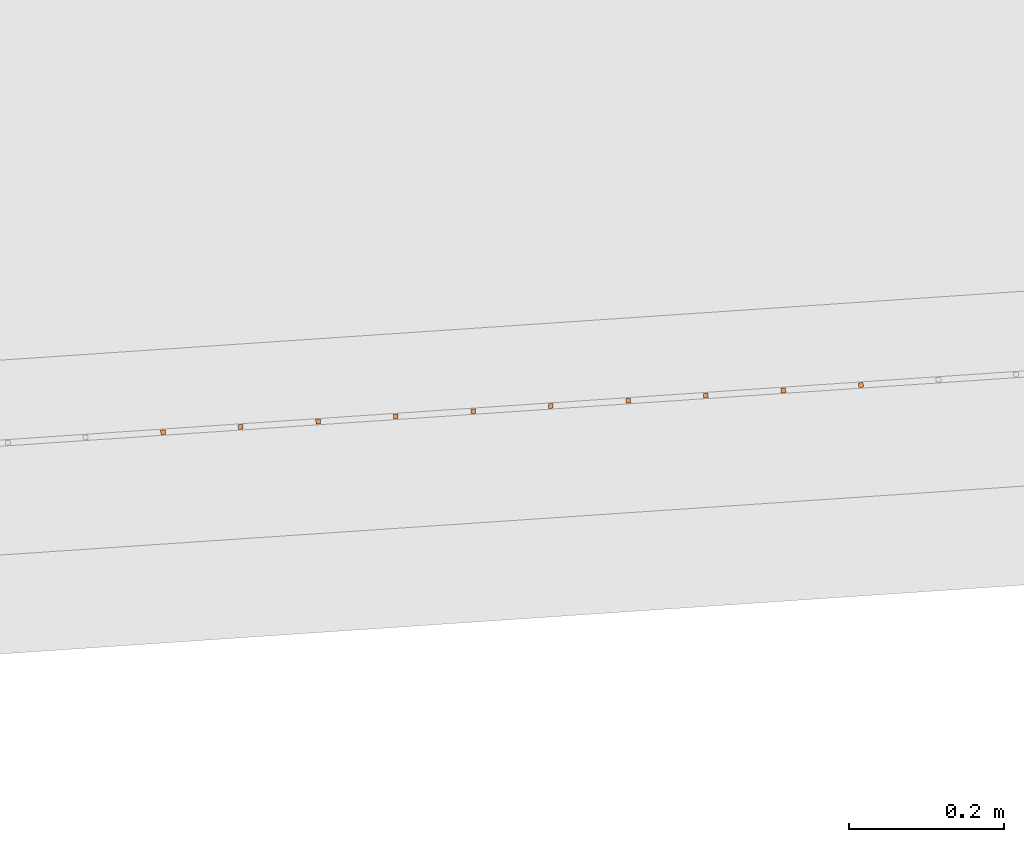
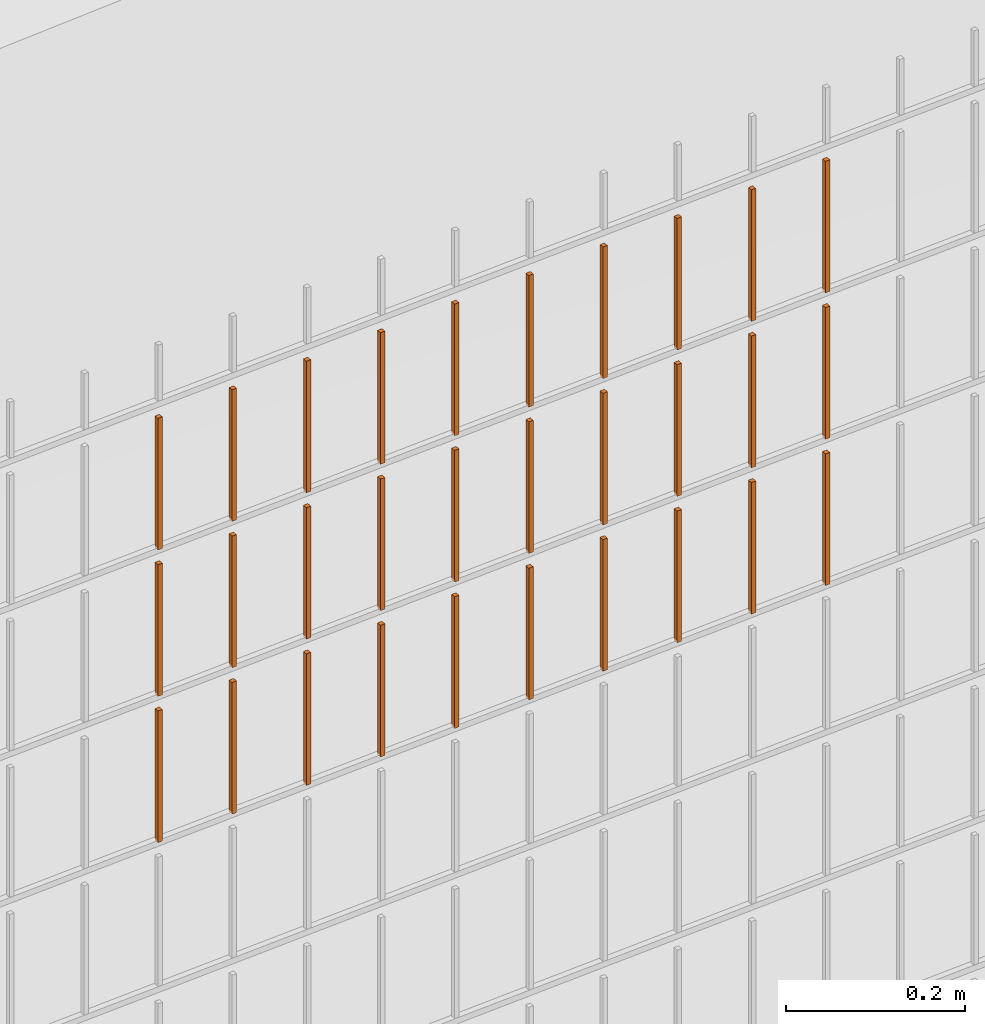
# One storey, part 318 of 1809: 30 proxies, 1 element without a shape of its own.
"""IFC2X3 building model written with IfcOpenShell, lengths in millimetres."""

from ifc_helpers import new_model, entity, si_unit, converted_unit, derived_unit, money_unit, direction, frame, origin_with_axes, place, context, subcontext, project, spatial, faceted_brep, source, transform, mapped, material, type_object, element, aggregate, save


model = new_model("IFC2X3")

# Units and contexts
model_context = context("Model", 3, precision=0.01, world=origin_with_axes(), true_north=direction((0.0, 1.0)))
body_context = subcontext(model_context, "Body", "Model", "MODEL_VIEW")
ifc_project = project(units=[si_unit("LENGTHUNIT", "METRE", prefix="MILLI"), si_unit("AREAUNIT", "SQUARE_METRE"), si_unit("VOLUMEUNIT", "CUBIC_METRE"), converted_unit("PLANEANGLEUNIT", "DEGREE", entity("IfcPlaneAngleMeasure", 0.0174532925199), si_unit("PLANEANGLEUNIT", "RADIAN"), dimensions=[0, 0, 0, 0, 0, 0, 0]), si_unit("SOLIDANGLEUNIT", "STERADIAN"), money_unit("EUR"), converted_unit("TIMEUNIT", "Year", entity("IfcTimeMeasure", 31556926.0), si_unit("TIMEUNIT", "SECOND"), dimensions=[0, 0, 1, 0, 0, 0, 0]), si_unit("MASSUNIT", "GRAM", prefix="KILO"), si_unit("THERMODYNAMICTEMPERATUREUNIT", "DEGREE_CELSIUS"), si_unit("LUMINOUSINTENSITYUNIT", "LUMEN"), si_unit("ENERGYUNIT", "JOULE", prefix="MEGA"), derived_unit("THERMALCONDUCTANCEUNIT", [(si_unit("POWERUNIT", "WATT"), 1), (si_unit("LENGTHUNIT", "METRE"), -1), (si_unit("THERMODYNAMICTEMPERATUREUNIT", "KELVIN"), -1)]), derived_unit("SPECIFICHEATCAPACITYUNIT", [(si_unit("ENERGYUNIT", "JOULE"), 1), (si_unit("MASSUNIT", "GRAM", prefix="KILO"), -1), (si_unit("THERMODYNAMICTEMPERATUREUNIT", "KELVIN"), -1)]), derived_unit("MASSDENSITYUNIT", [(si_unit("MASSUNIT", "GRAM", prefix="KILO"), 1), (si_unit("VOLUMEUNIT", "CUBIC_METRE"), -1)])], contexts=[model_context])

# Site, building, storey
site_placement = place(None, origin_with_axes())
site = spatial("IfcSite", under=ifc_project, at=site_placement, Name="Politse- ja Piirivalveameti ning Päästeameti ühishoone", CompositionType="ELEMENT")
building_placement = place(site_placement, origin_with_axes())
building = spatial("IfcBuilding", under=site, at=building_placement, Name="Politse- ja Piirivalveameti ning Päästeameti ühishoone", CompositionType="ELEMENT")
storey_placement = place(building_placement, origin_with_axes())
storey = spatial("IfcBuildingStorey", under=building, at=storey_placement, Name="Esimene korrus", CompositionType="ELEMENT", Elevation=0.0)

# Proxies
building_element_proxy_type_1 = type_object("IfcBuildingElementProxyType", Name="Railing Type", PredefinedType="NOTDEFINED")
proxy_1_placement = place(storey_placement, frame((89252.001212, -29183.4766571, 203.661247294), z_axis=(0.0, 0.0, 1.0), x_axis=(1.0, 0.0, 0.0)))
proxy_1 = element("IfcBuildingElementProxy", 1, at=proxy_1_placement, inside=storey, type_object=building_element_proxy_type_1, Name="PIIRDEAED")
ifc_material = material(Name="ET-03_Raud")
building_element_proxy_type_2 = type_object("IfcBuildingElementProxyType", Name="IfcBuildingElementProxy", PredefinedType="NOTDEFINED")
shared_shape_1 = source(origin_with_axes(), body_context, "Body", "Brep", [
    faceted_brep([(3.0, 3.0, -0.000752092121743), (-3.0, 3.0, -0.000752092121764), (-3.0, 3.0, 179.99926046), (3.0, 3.0, 179.99926046), (3.0, -3.0, 0.000752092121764), (-3.0, -3.0, 0.000752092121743), (-3.0, -3.0, 180.000764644), (3.0, -3.0, 180.000764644)], [[[0, 1, 2, 3]], [[0, 4, 5, 1]], [[1, 5, 6, 2]], [[3, 2, 6, 7]], [[4, 0, 3, 7]], [[5, 4, 7, 6]]]),
])
proxy_2_placement = place(proxy_1_placement, frame((-38538.8713622, -19900.9300817, 1417.55077627), z_axis=(0.0, 0.0, 1.0), x_axis=(1.0, 0.0, 0.0)))
proxy_2 = element("IfcBuildingElementProxy", 2, at=proxy_2_placement, type_object=building_element_proxy_type_2, material=ifc_material, Name="BALUSTER - 001", context=body_context, shape_type="MappedRepresentation", body=[
    mapped(shared_shape_1, transform((0.0, 0.0, 0.0), x_axis=(-0.0673926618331, 0.997726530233, 0.0), y_axis=(-0.997726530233, -0.0673926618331, 0.0), z_axis=(0.0, 0.0, 1.0))),
])
shared_shape_2 = source(origin_with_axes(), body_context, "Body", "Brep", [
    faceted_brep([(3.0, 3.0, -0.000752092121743), (-3.0, 3.0, -0.000752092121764), (-3.0, 3.0, 179.99926046), (3.0, 3.0, 179.99926046), (3.0, -3.0, 0.000752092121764), (-3.0, -3.0, 0.000752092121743), (-3.0, -3.0, 180.000764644), (3.0, -3.0, 180.000764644)], [[[0, 1, 2, 3]], [[0, 4, 5, 1]], [[1, 5, 6, 2]], [[3, 2, 6, 7]], [[4, 0, 3, 7]], [[5, 4, 7, 6]]]),
])
proxy_3_placement = place(proxy_1_placement, frame((-38538.8713622, -19900.9300817, 1817.55077627), z_axis=(0.0, 0.0, 1.0), x_axis=(1.0, 0.0, 0.0)))
proxy_3 = element("IfcBuildingElementProxy", 3, at=proxy_3_placement, type_object=building_element_proxy_type_2, material=ifc_material, Name="BALUSTER - 001", context=body_context, shape_type="MappedRepresentation", body=[
    mapped(shared_shape_2, transform((0.0, 0.0, 0.0), x_axis=(-0.0673926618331, 0.997726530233, 0.0), y_axis=(-0.997726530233, -0.0673926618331, 0.0), z_axis=(0.0, 0.0, 1.0))),
])
shared_shape_3 = source(origin_with_axes(), body_context, "Body", "Brep", [
    faceted_brep([(3.0, 3.0, -0.000752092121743), (-3.0, 3.0, -0.000752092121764), (-3.0, 3.0, 179.99926046), (3.0, 3.0, 179.99926046), (3.0, -3.0, 0.000752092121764), (-3.0, -3.0, 0.000752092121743), (-3.0, -3.0, 180.000764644), (3.0, -3.0, 180.000764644)], [[[0, 1, 2, 3]], [[0, 4, 5, 1]], [[1, 5, 6, 2]], [[3, 2, 6, 7]], [[4, 0, 3, 7]], [[5, 4, 7, 6]]]),
])
proxy_4_placement = place(proxy_1_placement, frame((-38439.0987092, -19894.1908155, 1417.57584601), z_axis=(0.0, 0.0, 1.0), x_axis=(1.0, 0.0, 0.0)))
proxy_4 = element("IfcBuildingElementProxy", 4, at=proxy_4_placement, type_object=building_element_proxy_type_2, material=ifc_material, Name="BALUSTER - 001", context=body_context, shape_type="MappedRepresentation", body=[
    mapped(shared_shape_3, transform((0.0, 0.0, 0.0), x_axis=(-0.0673926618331, 0.997726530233, 0.0), y_axis=(-0.997726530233, -0.0673926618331, 0.0), z_axis=(0.0, 0.0, 1.0))),
])
proxy_5_placement = place(proxy_1_placement, frame((-38439.0987092, -19894.1908155, 1617.57584601), z_axis=(0.0, 0.0, 1.0), x_axis=(1.0, 0.0, 0.0)))
proxy_5 = element("IfcBuildingElementProxy", 5, at=proxy_5_placement, type_object=building_element_proxy_type_2, material=ifc_material, Name="BALUSTER - 001", context=body_context, shape_type="MappedRepresentation", body=[
    mapped(shared_shape_3, transform((0.0, 0.0, 0.0), x_axis=(-0.0673926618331, 0.997726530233, 0.0), y_axis=(-0.997726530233, -0.0673926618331, 0.0), z_axis=(0.0, 0.0, 1.0))),
])
shared_shape_4 = source(origin_with_axes(), body_context, "Body", "Brep", [
    faceted_brep([(3.0, 3.0, -0.000752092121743), (-3.0, 3.0, -0.000752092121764), (-3.0, 3.0, 179.99926046), (3.0, 3.0, 179.99926046), (3.0, -3.0, 0.000752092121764), (-3.0, -3.0, 0.000752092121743), (-3.0, -3.0, 180.000764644), (3.0, -3.0, 180.000764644)], [[[0, 1, 2, 3]], [[0, 4, 5, 1]], [[1, 5, 6, 2]], [[3, 2, 6, 7]], [[4, 0, 3, 7]], [[5, 4, 7, 6]]]),
])
proxy_6_placement = place(proxy_1_placement, frame((-38538.8713622, -19900.9300817, 1617.55077627), z_axis=(0.0, 0.0, 1.0), x_axis=(1.0, 0.0, 0.0)))
proxy_6 = element("IfcBuildingElementProxy", 6, at=proxy_6_placement, type_object=building_element_proxy_type_2, material=ifc_material, Name="BALUSTER - 001", context=body_context, shape_type="MappedRepresentation", body=[
    mapped(shared_shape_4, transform((0.0, 0.0, 0.0), x_axis=(-0.0673926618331, 0.997726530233, 0.0), y_axis=(-0.997726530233, -0.0673926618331, 0.0), z_axis=(0.0, 0.0, 1.0))),
])
proxy_7_placement = place(proxy_1_placement, frame((-38439.0987092, -19894.1908155, 1817.57584601), z_axis=(0.0, 0.0, 1.0), x_axis=(1.0, 0.0, 0.0)))
proxy_7 = element("IfcBuildingElementProxy", 7, at=proxy_7_placement, type_object=building_element_proxy_type_2, material=ifc_material, Name="BALUSTER - 001", context=body_context, shape_type="MappedRepresentation", body=[
    mapped(shared_shape_4, transform((0.0, 0.0, 0.0), x_axis=(-0.0673926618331, 0.997726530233, 0.0), y_axis=(-0.997726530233, -0.0673926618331, 0.0), z_axis=(0.0, 0.0, 1.0))),
])
shared_shape_5 = source(origin_with_axes(), body_context, "Body", "Brep", [
    faceted_brep([(3.0, 3.0, -0.000752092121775), (-3.0, 3.0, -0.000752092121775), (-3.0, 3.0, 179.99926046), (3.0, 3.0, 179.99926046), (3.0, -3.0, 0.000752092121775), (-3.0, -3.0, 0.000752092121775), (-3.0, -3.0, 180.000764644), (3.0, -3.0, 180.000764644)], [[[0, 1, 2, 3]], [[0, 4, 5, 1]], [[1, 5, 6, 2]], [[3, 2, 6, 7]], [[4, 0, 3, 7]], [[5, 4, 7, 6]]]),
])
proxy_8_placement = place(proxy_1_placement, frame((-38838.1893213, -19921.1478802, 1417.47556706), z_axis=(0.0, 0.0, 1.0), x_axis=(1.0, 0.0, 0.0)))
proxy_8 = element("IfcBuildingElementProxy", 8, at=proxy_8_placement, type_object=building_element_proxy_type_2, material=ifc_material, Name="BALUSTER - 001", context=body_context, shape_type="MappedRepresentation", body=[
    mapped(shared_shape_5, transform((0.0, 0.0, 0.0), x_axis=(-0.0673926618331, 0.997726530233, 0.0), y_axis=(-0.997726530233, -0.0673926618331, 0.0), z_axis=(0.0, 0.0, 1.0))),
])
shared_shape_6 = source(origin_with_axes(), body_context, "Body", "Brep", [
    faceted_brep([(3.0, 3.0, -0.000752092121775), (-3.0, 3.0, -0.000752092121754), (-3.0, 3.0, 179.99926046), (3.0, 3.0, 179.99926046), (3.0, -3.0, 0.000752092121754), (-3.0, -3.0, 0.000752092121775), (-3.0, -3.0, 180.000764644), (3.0, -3.0, 180.000764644)], [[[0, 1, 2, 3]], [[0, 4, 5, 1]], [[1, 5, 6, 2]], [[3, 2, 6, 7]], [[4, 0, 3, 7]], [[5, 4, 7, 6]]]),
])
proxy_9_placement = place(proxy_1_placement, frame((-39037.7346273, -19934.6264126, 1817.42542759), z_axis=(0.0, 0.0, 1.0), x_axis=(1.0, 0.0, 0.0)))
proxy_9 = element("IfcBuildingElementProxy", 9, at=proxy_9_placement, type_object=building_element_proxy_type_2, material=ifc_material, Name="BALUSTER - 001", context=body_context, shape_type="MappedRepresentation", body=[
    mapped(shared_shape_6, transform((0.0, 0.0, 0.0), x_axis=(-0.0673926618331, 0.997726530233, 0.0), y_axis=(-0.997726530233, -0.0673926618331, 0.0), z_axis=(0.0, 0.0, 1.0))),
])
shared_shape_7 = source(origin_with_axes(), body_context, "Body", "Brep", [
    faceted_brep([(3.0, 3.0, -0.000752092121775), (-3.0, 3.0, -0.000752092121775), (-3.0, 3.0, 179.99926046), (3.0, 3.0, 179.99926046), (3.0, -3.0, 0.000752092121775), (-3.0, -3.0, 0.000752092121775), (-3.0, -3.0, 180.000764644), (3.0, -3.0, 180.000764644)], [[[0, 1, 2, 3]], [[0, 4, 5, 1]], [[1, 5, 6, 2]], [[3, 2, 6, 7]], [[4, 0, 3, 7]], [[5, 4, 7, 6]]]),
])
proxy_10_placement = place(proxy_1_placement, frame((-38838.1893213, -19921.1478802, 1817.47556706), z_axis=(0.0, 0.0, 1.0), x_axis=(1.0, 0.0, 0.0)))
proxy_10 = element("IfcBuildingElementProxy", 10, at=proxy_10_placement, type_object=building_element_proxy_type_2, material=ifc_material, Name="BALUSTER - 001", context=body_context, shape_type="MappedRepresentation", body=[
    mapped(shared_shape_7, transform((0.0, 0.0, 0.0), x_axis=(-0.0673926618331, 0.997726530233, 0.0), y_axis=(-0.997726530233, -0.0673926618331, 0.0), z_axis=(0.0, 0.0, 1.0))),
])
shared_shape_8 = source(origin_with_axes(), body_context, "Body", "Brep", [
    faceted_brep([(3.0, 3.0, -0.000752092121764), (-3.0, 3.0, -0.000752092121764), (-3.0, 3.0, 179.99926046), (3.0, 3.0, 179.99926046), (3.0, -3.0, 0.000752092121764), (-3.0, -3.0, 0.000752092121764), (-3.0, -3.0, 180.000764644), (3.0, -3.0, 180.000764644)], [[[0, 1, 2, 3]], [[0, 4, 5, 1]], [[1, 5, 6, 2]], [[3, 2, 6, 7]], [[4, 0, 3, 7]], [[5, 4, 7, 6]]]),
])
proxy_11_placement = place(proxy_1_placement, frame((-38638.6440152, -19907.6693479, 1817.52570654), z_axis=(0.0, 0.0, 1.0), x_axis=(1.0, 0.0, 0.0)))
proxy_11 = element("IfcBuildingElementProxy", 11, at=proxy_11_placement, type_object=building_element_proxy_type_2, material=ifc_material, Name="BALUSTER - 001", context=body_context, shape_type="MappedRepresentation", body=[
    mapped(shared_shape_8, transform((0.0, 0.0, 0.0), x_axis=(-0.0673926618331, 0.997726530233, 0.0), y_axis=(-0.997726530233, -0.0673926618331, 0.0), z_axis=(0.0, 0.0, 1.0))),
])
shared_shape_9 = source(origin_with_axes(), body_context, "Body", "Brep", [
    faceted_brep([(3.0, 3.0, -0.000752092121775), (-3.0, 3.0, -0.000752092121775), (-3.0, 3.0, 179.99926046), (3.0, 3.0, 179.99926046), (3.0, -3.0, 0.000752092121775), (-3.0, -3.0, 0.000752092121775), (-3.0, -3.0, 180.000764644), (3.0, -3.0, 180.000764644)], [[[0, 1, 2, 3]], [[0, 4, 5, 1]], [[1, 5, 6, 2]], [[3, 2, 6, 7]], [[4, 0, 3, 7]], [[5, 4, 7, 6]]]),
])
proxy_12_placement = place(proxy_1_placement, frame((-38838.1893213, -19921.1478802, 1617.47556706), z_axis=(0.0, 0.0, 1.0), x_axis=(1.0, 0.0, 0.0)))
proxy_12 = element("IfcBuildingElementProxy", 12, at=proxy_12_placement, type_object=building_element_proxy_type_2, material=ifc_material, Name="BALUSTER - 001", context=body_context, shape_type="MappedRepresentation", body=[
    mapped(shared_shape_9, transform((0.0, 0.0, 0.0), x_axis=(-0.0673926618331, 0.997726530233, 0.0), y_axis=(-0.997726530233, -0.0673926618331, 0.0), z_axis=(0.0, 0.0, 1.0))),
])
shared_shape_10 = source(origin_with_axes(), body_context, "Body", "Brep", [
    faceted_brep([(3.0, 3.0, -0.000752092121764), (-3.0, 3.0, -0.000752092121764), (-3.0, 3.0, 179.99926046), (3.0, 3.0, 179.99926046), (3.0, -3.0, 0.000752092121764), (-3.0, -3.0, 0.000752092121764), (-3.0, -3.0, 180.000764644), (3.0, -3.0, 180.000764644)], [[[0, 1, 2, 3]], [[0, 4, 5, 1]], [[1, 5, 6, 2]], [[3, 2, 6, 7]], [[4, 0, 3, 7]], [[5, 4, 7, 6]]]),
])
proxy_13_placement = place(proxy_1_placement, frame((-38937.9619743, -19927.8871464, 1417.45049732), z_axis=(0.0, 0.0, 1.0), x_axis=(1.0, 0.0, 0.0)))
proxy_13 = element("IfcBuildingElementProxy", 13, at=proxy_13_placement, type_object=building_element_proxy_type_2, material=ifc_material, Name="BALUSTER - 001", context=body_context, shape_type="MappedRepresentation", body=[
    mapped(shared_shape_10, transform((0.0, 0.0, 0.0), x_axis=(-0.0673926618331, 0.997726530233, 0.0), y_axis=(-0.997726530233, -0.0673926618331, 0.0), z_axis=(0.0, 0.0, 1.0))),
])
shared_shape_11 = source(origin_with_axes(), body_context, "Body", "Brep", [
    faceted_brep([(3.0, 3.0, -0.000752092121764), (-3.0, 3.0, -0.000752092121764), (-3.0, 3.0, 179.99926046), (3.0, 3.0, 179.99926046), (3.0, -3.0, 0.000752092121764), (-3.0, -3.0, 0.000752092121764), (-3.0, -3.0, 180.000764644), (3.0, -3.0, 180.000764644)], [[[0, 1, 2, 3]], [[0, 4, 5, 1]], [[1, 5, 6, 2]], [[3, 2, 6, 7]], [[4, 0, 3, 7]], [[5, 4, 7, 6]]]),
])
proxy_14_placement = place(proxy_1_placement, frame((-38339.3260561, -19887.4515493, 1817.60091575), z_axis=(0.0, 0.0, 1.0), x_axis=(1.0, 0.0, 0.0)))
proxy_14 = element("IfcBuildingElementProxy", 14, at=proxy_14_placement, type_object=building_element_proxy_type_2, material=ifc_material, Name="BALUSTER - 001", context=body_context, shape_type="MappedRepresentation", body=[
    mapped(shared_shape_11, transform((0.0, 0.0, 0.0), x_axis=(-0.0673926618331, 0.997726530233, 0.0), y_axis=(-0.997726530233, -0.0673926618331, 0.0), z_axis=(0.0, 0.0, 1.0))),
])
proxy_15_placement = place(proxy_1_placement, frame((-38937.9619743, -19927.8871464, 1817.45049732), z_axis=(0.0, 0.0, 1.0), x_axis=(1.0, 0.0, 0.0)))
proxy_15 = element("IfcBuildingElementProxy", 15, at=proxy_15_placement, type_object=building_element_proxy_type_2, material=ifc_material, Name="BALUSTER - 001", context=body_context, shape_type="MappedRepresentation", body=[
    mapped(shared_shape_11, transform((0.0, 0.0, 0.0), x_axis=(-0.0673926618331, 0.997726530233, 0.0), y_axis=(-0.997726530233, -0.0673926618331, 0.0), z_axis=(0.0, 0.0, 1.0))),
])
shared_shape_12 = source(origin_with_axes(), body_context, "Body", "Brep", [
    faceted_brep([(3.0, 3.0, -0.000752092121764), (-3.0, 3.0, -0.000752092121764), (-3.0, 3.0, 179.99926046), (3.0, 3.0, 179.99926046), (3.0, -3.0, 0.000752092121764), (-3.0, -3.0, 0.000752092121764), (-3.0, -3.0, 180.000764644), (3.0, -3.0, 180.000764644)], [[[0, 1, 2, 3]], [[0, 4, 5, 1]], [[1, 5, 6, 2]], [[3, 2, 6, 7]], [[4, 0, 3, 7]], [[5, 4, 7, 6]]]),
])
proxy_16_placement = place(proxy_1_placement, frame((-38638.6440152, -19907.6693479, 1417.52570654), z_axis=(0.0, 0.0, 1.0), x_axis=(1.0, 0.0, 0.0)))
proxy_16 = element("IfcBuildingElementProxy", 16, at=proxy_16_placement, type_object=building_element_proxy_type_2, material=ifc_material, Name="BALUSTER - 001", context=body_context, shape_type="MappedRepresentation", body=[
    mapped(shared_shape_12, transform((0.0, 0.0, 0.0), x_axis=(-0.0673926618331, 0.997726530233, 0.0), y_axis=(-0.997726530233, -0.0673926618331, 0.0), z_axis=(0.0, 0.0, 1.0))),
])
shared_shape_13 = source(origin_with_axes(), body_context, "Body", "Brep", [
    faceted_brep([(3.0, 3.0, -0.000752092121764), (-3.0, 3.0, -0.000752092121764), (-3.0, 3.0, 179.99926046), (3.0, 3.0, 179.99926046), (3.0, -3.0, 0.000752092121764), (-3.0, -3.0, 0.000752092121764), (-3.0, -3.0, 180.000764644), (3.0, -3.0, 180.000764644)], [[[0, 1, 2, 3]], [[0, 4, 5, 1]], [[1, 5, 6, 2]], [[3, 2, 6, 7]], [[4, 0, 3, 7]], [[5, 4, 7, 6]]]),
])
proxy_17_placement = place(proxy_1_placement, frame((-38239.5534031, -19880.7122831, 1817.62598549), z_axis=(0.0, 0.0, 1.0), x_axis=(1.0, 0.0, 0.0)))
proxy_17 = element("IfcBuildingElementProxy", 17, at=proxy_17_placement, type_object=building_element_proxy_type_2, material=ifc_material, Name="BALUSTER - 001", context=body_context, shape_type="MappedRepresentation", body=[
    mapped(shared_shape_13, transform((0.0, 0.0, 0.0), x_axis=(-0.0673926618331, 0.997726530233, 0.0), y_axis=(-0.997726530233, -0.0673926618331, 0.0), z_axis=(0.0, 0.0, 1.0))),
])
proxy_18_placement = place(proxy_1_placement, frame((-38738.4166682, -19914.408614, 1817.5006368), z_axis=(0.0, 0.0, 1.0), x_axis=(1.0, 0.0, 0.0)))
proxy_18 = element("IfcBuildingElementProxy", 18, at=proxy_18_placement, type_object=building_element_proxy_type_2, material=ifc_material, Name="BALUSTER - 001", context=body_context, shape_type="MappedRepresentation", body=[
    mapped(shared_shape_13, transform((0.0, 0.0, 0.0), x_axis=(-0.0673926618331, 0.997726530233, 0.0), y_axis=(-0.997726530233, -0.0673926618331, 0.0), z_axis=(0.0, 0.0, 1.0))),
])
shared_shape_14 = source(origin_with_axes(), body_context, "Body", "Brep", [
    faceted_brep([(3.0, 3.0, -0.000752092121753), (-3.0, 3.0, -0.000752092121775), (-3.0, 3.0, 179.99926046), (3.0, 3.0, 179.99926046), (3.0, -3.0, 0.000752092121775), (-3.0, -3.0, 0.000752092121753), (-3.0, -3.0, 180.000764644), (3.0, -3.0, 180.000764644)], [[[0, 1, 2, 3]], [[0, 4, 5, 1]], [[1, 5, 6, 2]], [[3, 2, 6, 7]], [[4, 0, 3, 7]], [[5, 4, 7, 6]]]),
])
proxy_19_placement = place(proxy_1_placement, frame((-39137.5072803, -19941.3656788, 1817.40035785), z_axis=(0.0, 0.0, 1.0), x_axis=(1.0, 0.0, 0.0)))
proxy_19 = element("IfcBuildingElementProxy", 19, at=proxy_19_placement, type_object=building_element_proxy_type_2, material=ifc_material, Name="BALUSTER - 001", context=body_context, shape_type="MappedRepresentation", body=[
    mapped(shared_shape_14, transform((0.0, 0.0, 0.0), x_axis=(-0.0673926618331, 0.997726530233, 0.0), y_axis=(-0.997726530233, -0.0673926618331, 0.0), z_axis=(0.0, 0.0, 1.0))),
])
shared_shape_15 = source(origin_with_axes(), body_context, "Body", "Brep", [
    faceted_brep([(3.0, 3.0, -0.000752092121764), (-3.0, 3.0, -0.000752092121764), (-3.0, 3.0, 179.99926046), (3.0, 3.0, 179.99926046), (3.0, -3.0, 0.000752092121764), (-3.0, -3.0, 0.000752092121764), (-3.0, -3.0, 180.000764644), (3.0, -3.0, 180.000764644)], [[[0, 1, 2, 3]], [[0, 4, 5, 1]], [[1, 5, 6, 2]], [[3, 2, 6, 7]], [[4, 0, 3, 7]], [[5, 4, 7, 6]]]),
])
proxy_20_placement = place(proxy_1_placement, frame((-38339.3260561, -19887.4515493, 1417.60091575), z_axis=(0.0, 0.0, 1.0), x_axis=(1.0, 0.0, 0.0)))
proxy_20 = element("IfcBuildingElementProxy", 20, at=proxy_20_placement, type_object=building_element_proxy_type_2, material=ifc_material, Name="BALUSTER - 001", context=body_context, shape_type="MappedRepresentation", body=[
    mapped(shared_shape_15, transform((0.0, 0.0, 0.0), x_axis=(-0.0673926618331, 0.997726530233, 0.0), y_axis=(-0.997726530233, -0.0673926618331, 0.0), z_axis=(0.0, 0.0, 1.0))),
])
proxy_21_placement = place(proxy_1_placement, frame((-38339.3260561, -19887.4515493, 1617.60091575), z_axis=(0.0, 0.0, 1.0), x_axis=(1.0, 0.0, 0.0)))
proxy_21 = element("IfcBuildingElementProxy", 21, at=proxy_21_placement, type_object=building_element_proxy_type_2, material=ifc_material, Name="BALUSTER - 001", context=body_context, shape_type="MappedRepresentation", body=[
    mapped(shared_shape_15, transform((0.0, 0.0, 0.0), x_axis=(-0.0673926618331, 0.997726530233, 0.0), y_axis=(-0.997726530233, -0.0673926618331, 0.0), z_axis=(0.0, 0.0, 1.0))),
])
shared_shape_16 = source(origin_with_axes(), body_context, "Body", "Brep", [
    faceted_brep([(3.0, 3.0, -0.000752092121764), (-3.0, 3.0, -0.000752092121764), (-3.0, 3.0, 179.99926046), (3.0, 3.0, 179.99926046), (3.0, -3.0, 0.000752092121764), (-3.0, -3.0, 0.000752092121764), (-3.0, -3.0, 180.000764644), (3.0, -3.0, 180.000764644)], [[[0, 1, 2, 3]], [[0, 4, 5, 1]], [[1, 5, 6, 2]], [[3, 2, 6, 7]], [[4, 0, 3, 7]], [[5, 4, 7, 6]]]),
])
proxy_22_placement = place(proxy_1_placement, frame((-38638.6440152, -19907.6693479, 1617.52570654), z_axis=(0.0, 0.0, 1.0), x_axis=(1.0, 0.0, 0.0)))
proxy_22 = element("IfcBuildingElementProxy", 22, at=proxy_22_placement, type_object=building_element_proxy_type_2, material=ifc_material, Name="BALUSTER - 001", context=body_context, shape_type="MappedRepresentation", body=[
    mapped(shared_shape_16, transform((0.0, 0.0, 0.0), x_axis=(-0.0673926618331, 0.997726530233, 0.0), y_axis=(-0.997726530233, -0.0673926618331, 0.0), z_axis=(0.0, 0.0, 1.0))),
])
shared_shape_17 = source(origin_with_axes(), body_context, "Body", "Brep", [
    faceted_brep([(3.0, 3.0, -0.000752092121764), (-3.0, 3.0, -0.000752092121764), (-3.0, 3.0, 179.99926046), (3.0, 3.0, 179.99926046), (3.0, -3.0, 0.000752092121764), (-3.0, -3.0, 0.000752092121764), (-3.0, -3.0, 180.000764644), (3.0, -3.0, 180.000764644)], [[[0, 1, 2, 3]], [[0, 4, 5, 1]], [[1, 5, 6, 2]], [[3, 2, 6, 7]], [[4, 0, 3, 7]], [[5, 4, 7, 6]]]),
])
proxy_23_placement = place(proxy_1_placement, frame((-38239.5534031, -19880.7122831, 1417.62598549), z_axis=(0.0, 0.0, 1.0), x_axis=(1.0, 0.0, 0.0)))
proxy_23 = element("IfcBuildingElementProxy", 23, at=proxy_23_placement, type_object=building_element_proxy_type_2, material=ifc_material, Name="BALUSTER - 001", context=body_context, shape_type="MappedRepresentation", body=[
    mapped(shared_shape_17, transform((0.0, 0.0, 0.0), x_axis=(-0.0673926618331, 0.997726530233, 0.0), y_axis=(-0.997726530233, -0.0673926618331, 0.0), z_axis=(0.0, 0.0, 1.0))),
])
shared_shape_18 = source(origin_with_axes(), body_context, "Body", "Brep", [
    faceted_brep([(3.0, 3.0, -0.000752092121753), (-3.0, 3.0, -0.000752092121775), (-3.0, 3.0, 179.99926046), (3.0, 3.0, 179.99926046), (3.0, -3.0, 0.000752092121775), (-3.0, -3.0, 0.000752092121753), (-3.0, -3.0, 180.000764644), (3.0, -3.0, 180.000764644)], [[[0, 1, 2, 3]], [[0, 4, 5, 1]], [[1, 5, 6, 2]], [[3, 2, 6, 7]], [[4, 0, 3, 7]], [[5, 4, 7, 6]]]),
])
proxy_24_placement = place(proxy_1_placement, frame((-39137.5072803, -19941.3656788, 1417.40035785), z_axis=(0.0, 0.0, 1.0), x_axis=(1.0, 0.0, 0.0)))
proxy_24 = element("IfcBuildingElementProxy", 24, at=proxy_24_placement, type_object=building_element_proxy_type_2, material=ifc_material, Name="BALUSTER - 001", context=body_context, shape_type="MappedRepresentation", body=[
    mapped(shared_shape_18, transform((0.0, 0.0, 0.0), x_axis=(-0.0673926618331, 0.997726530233, 0.0), y_axis=(-0.997726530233, -0.0673926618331, 0.0), z_axis=(0.0, 0.0, 1.0))),
])
proxy_25_placement = place(proxy_1_placement, frame((-39137.5072803, -19941.3656788, 1617.40035785), z_axis=(0.0, 0.0, 1.0), x_axis=(1.0, 0.0, 0.0)))
proxy_25 = element("IfcBuildingElementProxy", 25, at=proxy_25_placement, type_object=building_element_proxy_type_2, material=ifc_material, Name="BALUSTER - 001", context=body_context, shape_type="MappedRepresentation", body=[
    mapped(shared_shape_18, transform((0.0, 0.0, 0.0), x_axis=(-0.0673926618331, 0.997726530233, 0.0), y_axis=(-0.997726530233, -0.0673926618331, 0.0), z_axis=(0.0, 0.0, 1.0))),
])
shared_shape_19 = source(origin_with_axes(), body_context, "Body", "Brep", [
    faceted_brep([(3.0, 3.0, -0.000752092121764), (-3.0, 3.0, -0.000752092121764), (-3.0, 3.0, 179.99926046), (3.0, 3.0, 179.99926046), (3.0, -3.0, 0.000752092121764), (-3.0, -3.0, 0.000752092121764), (-3.0, -3.0, 180.000764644), (3.0, -3.0, 180.000764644)], [[[0, 1, 2, 3]], [[0, 4, 5, 1]], [[1, 5, 6, 2]], [[3, 2, 6, 7]], [[4, 0, 3, 7]], [[5, 4, 7, 6]]]),
])
proxy_26_placement = place(proxy_1_placement, frame((-38239.5534031, -19880.7122831, 1617.62598549), z_axis=(0.0, 0.0, 1.0), x_axis=(1.0, 0.0, 0.0)))
proxy_26 = element("IfcBuildingElementProxy", 26, at=proxy_26_placement, type_object=building_element_proxy_type_2, material=ifc_material, Name="BALUSTER - 001", context=body_context, shape_type="MappedRepresentation", body=[
    mapped(shared_shape_19, transform((0.0, 0.0, 0.0), x_axis=(-0.0673926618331, 0.997726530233, 0.0), y_axis=(-0.997726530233, -0.0673926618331, 0.0), z_axis=(0.0, 0.0, 1.0))),
])
shared_shape_20 = source(origin_with_axes(), body_context, "Body", "Brep", [
    faceted_brep([(3.0, 3.0, -0.000752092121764), (-3.0, 3.0, -0.000752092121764), (-3.0, 3.0, 179.99926046), (3.0, 3.0, 179.99926046), (3.0, -3.0, 0.000752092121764), (-3.0, -3.0, 0.000752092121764), (-3.0, -3.0, 180.000764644), (3.0, -3.0, 180.000764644)], [[[0, 1, 2, 3]], [[0, 4, 5, 1]], [[1, 5, 6, 2]], [[3, 2, 6, 7]], [[4, 0, 3, 7]], [[5, 4, 7, 6]]]),
])
proxy_27_placement = place(proxy_1_placement, frame((-38937.9619743, -19927.8871464, 1617.45049732), z_axis=(0.0, 0.0, 1.0), x_axis=(1.0, 0.0, 0.0)))
proxy_27 = element("IfcBuildingElementProxy", 27, at=proxy_27_placement, type_object=building_element_proxy_type_2, material=ifc_material, Name="BALUSTER - 001", context=body_context, shape_type="MappedRepresentation", body=[
    mapped(shared_shape_20, transform((0.0, 0.0, 0.0), x_axis=(-0.0673926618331, 0.997726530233, 0.0), y_axis=(-0.997726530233, -0.0673926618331, 0.0), z_axis=(0.0, 0.0, 1.0))),
])
shared_shape_21 = source(origin_with_axes(), body_context, "Body", "Brep", [
    faceted_brep([(3.0, 3.0, -0.000752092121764), (-3.0, 3.0, -0.000752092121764), (-3.0, 3.0, 179.99926046), (3.0, 3.0, 179.99926046), (3.0, -3.0, 0.000752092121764), (-3.0, -3.0, 0.000752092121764), (-3.0, -3.0, 180.000764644), (3.0, -3.0, 180.000764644)], [[[0, 1, 2, 3]], [[0, 4, 5, 1]], [[1, 5, 6, 2]], [[3, 2, 6, 7]], [[4, 0, 3, 7]], [[5, 4, 7, 6]]]),
])
proxy_28_placement = place(proxy_1_placement, frame((-38738.4166682, -19914.408614, 1417.5006368), z_axis=(0.0, 0.0, 1.0), x_axis=(1.0, 0.0, 0.0)))
proxy_28 = element("IfcBuildingElementProxy", 28, at=proxy_28_placement, type_object=building_element_proxy_type_2, material=ifc_material, Name="BALUSTER - 001", context=body_context, shape_type="MappedRepresentation", body=[
    mapped(shared_shape_21, transform((0.0, 0.0, 0.0), x_axis=(-0.0673926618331, 0.997726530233, 0.0), y_axis=(-0.997726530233, -0.0673926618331, 0.0), z_axis=(0.0, 0.0, 1.0))),
])
proxy_29_placement = place(proxy_1_placement, frame((-38738.4166682, -19914.408614, 1617.5006368), z_axis=(0.0, 0.0, 1.0), x_axis=(1.0, 0.0, 0.0)))
proxy_29 = element("IfcBuildingElementProxy", 29, at=proxy_29_placement, type_object=building_element_proxy_type_2, material=ifc_material, Name="BALUSTER - 001", context=body_context, shape_type="MappedRepresentation", body=[
    mapped(shared_shape_21, transform((0.0, 0.0, 0.0), x_axis=(-0.0673926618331, 0.997726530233, 0.0), y_axis=(-0.997726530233, -0.0673926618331, 0.0), z_axis=(0.0, 0.0, 1.0))),
])
shared_shape_22 = source(origin_with_axes(), body_context, "Body", "Brep", [
    faceted_brep([(3.0, 3.0, -0.000752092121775), (-3.0, 3.0, -0.000752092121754), (-3.0, 3.0, 179.99926046), (3.0, 3.0, 179.99926046), (3.0, -3.0, 0.000752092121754), (-3.0, -3.0, 0.000752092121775), (-3.0, -3.0, 180.000764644), (3.0, -3.0, 180.000764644)], [[[0, 1, 2, 3]], [[0, 4, 5, 1]], [[1, 5, 6, 2]], [[3, 2, 6, 7]], [[4, 0, 3, 7]], [[5, 4, 7, 6]]]),
])
proxy_30_placement = place(proxy_1_placement, frame((-39037.7346273, -19934.6264126, 1417.42542759), z_axis=(0.0, 0.0, 1.0), x_axis=(1.0, 0.0, 0.0)))
proxy_30 = element("IfcBuildingElementProxy", 30, at=proxy_30_placement, type_object=building_element_proxy_type_2, material=ifc_material, Name="BALUSTER - 001", context=body_context, shape_type="MappedRepresentation", body=[
    mapped(shared_shape_22, transform((0.0, 0.0, 0.0), x_axis=(-0.0673926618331, 0.997726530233, 0.0), y_axis=(-0.997726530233, -0.0673926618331, 0.0), z_axis=(0.0, 0.0, 1.0))),
])
proxy_31_placement = place(proxy_1_placement, frame((-39037.7346273, -19934.6264126, 1617.42542759), z_axis=(0.0, 0.0, 1.0), x_axis=(1.0, 0.0, 0.0)))
proxy_31 = element("IfcBuildingElementProxy", 31, at=proxy_31_placement, type_object=building_element_proxy_type_2, material=ifc_material, Name="BALUSTER - 001", context=body_context, shape_type="MappedRepresentation", body=[
    mapped(shared_shape_22, transform((0.0, 0.0, 0.0), x_axis=(-0.0673926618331, 0.997726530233, 0.0), y_axis=(-0.997726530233, -0.0673926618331, 0.0), z_axis=(0.0, 0.0, 1.0))),
])
aggregate(proxy_1, [proxy_23, proxy_20, proxy_4, proxy_2, proxy_16, proxy_28, proxy_8, proxy_13, proxy_30, proxy_24, proxy_26, proxy_21, proxy_5, proxy_6, proxy_22, proxy_29, proxy_12, proxy_27, proxy_31, proxy_25, proxy_17, proxy_14, proxy_7, proxy_3, proxy_11, proxy_18, proxy_10, proxy_15, proxy_9, proxy_19])

save(model, "model.ifc")
